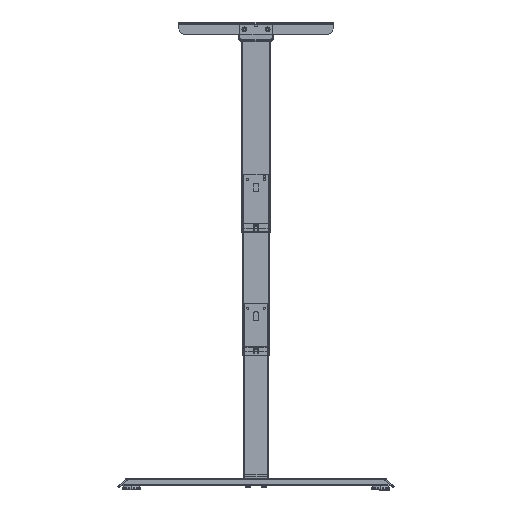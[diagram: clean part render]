
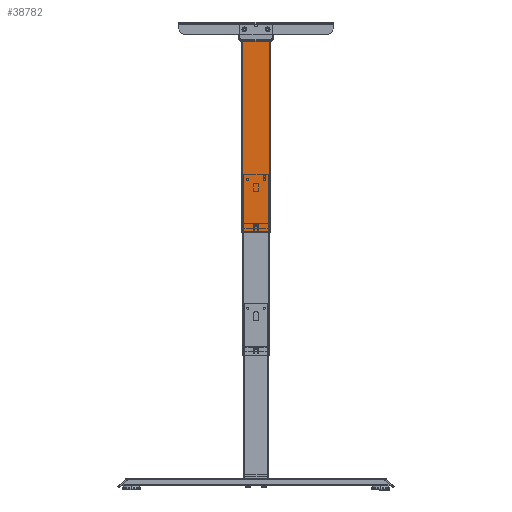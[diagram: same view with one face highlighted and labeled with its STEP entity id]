
A CAD part, left-side view. The second image highlights one B-rep face of the part: STEP entity #38782.
In plain terms, the highlighted planar face has unit normal (-1, 0, 0) as drawn and (1, 0, 0) by its records, which use the part's own axes.
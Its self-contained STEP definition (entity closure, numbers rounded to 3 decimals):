
#5737=ORIENTED_EDGE('',*,*,#16217,.F.);
#5738=ORIENTED_EDGE('',*,*,#16176,.T.);
#5739=ORIENTED_EDGE('',*,*,#16218,.F.);
#5740=ORIENTED_EDGE('',*,*,#16219,.F.);
#16176=EDGE_CURVE('',#21579,#21578,#25333,.T.);
#16217=EDGE_CURVE('',#21579,#21606,#25357,.T.);
#16218=EDGE_CURVE('',#21607,#21578,#25358,.T.);
#16219=EDGE_CURVE('',#21606,#21607,#25359,.T.);
#21578=VERTEX_POINT('',#61062);
#21579=VERTEX_POINT('',#61064);
#21606=VERTEX_POINT('',#61366);
#21607=VERTEX_POINT('',#61368);
#25333=LINE('',#61063,#29114);
#25357=LINE('',#61365,#29138);
#25358=LINE('',#61367,#29139);
#25359=LINE('',#61369,#29140);
#29114=VECTOR('',#49057,1000.);
#29138=VECTOR('',#49141,1000.);
#29139=VECTOR('',#49142,1000.);
#29140=VECTOR('',#49143,1000.);
#32677=EDGE_LOOP('',(#5737,#5738,#5739,#5740));
#35182=FACE_BOUND('',#32677,.T.);
#37349=PLANE('',#43843);
#38782=ADVANCED_FACE('',(#35182),#37349,.T.);
#43843=AXIS2_PLACEMENT_3D('',#61364,#49139,#49140);
#49057=DIRECTION('',(0.,1.,0.));
#49139=DIRECTION('',(1.,0.,0.));
#49140=DIRECTION('',(0.,0.,1.));
#49141=DIRECTION('',(0.,0.,1.));
#49142=DIRECTION('',(0.,0.,-1.));
#49143=DIRECTION('',(0.,1.,0.));
#61062=CARTESIAN_POINT('',(-10.003,37.008,49.998));
#61063=CARTESIAN_POINT('',(-10.003,0.001,49.998));
#61064=CARTESIAN_POINT('',(-10.003,-36.992,49.998));
#61364=CARTESIAN_POINT('',(-10.003,0.008,324.628));
#61365=CARTESIAN_POINT('',(-10.003,-36.992,47.998));
#61366=CARTESIAN_POINT('',(-10.003,-36.992,566.003));
#61367=CARTESIAN_POINT('',(-10.003,37.008,566.003));
#61368=CARTESIAN_POINT('',(-10.003,37.008,566.003));
#61369=CARTESIAN_POINT('',(-10.003,-36.992,566.003));
